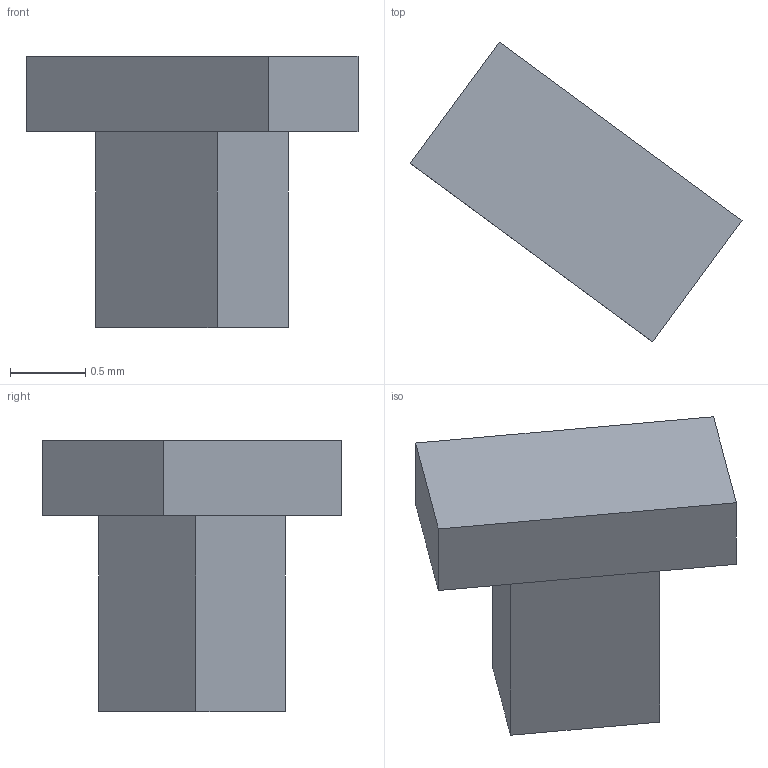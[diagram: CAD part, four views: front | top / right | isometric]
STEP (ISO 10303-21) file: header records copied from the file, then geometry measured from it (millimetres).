
FILE_DESCRIPTION(('FreeCAD Model'),'2;1');
FILE_NAME('Open CASCADE Shape Model','2026-10-23T21:15:57',('FreeCAD'),( 'FreeCAD'),'Open CASCADE STEP processor 7.8','FreeCAD','Unknown');
FILE_SCHEMA(('AUTOMOTIVE_DESIGN { 1 0 10303 214 1 1 1 1 }'));
Length unit declared in the file: millimetre
Products named in the file (1): Open CASCADE STEP translator 7.8 16
Bounding box: 2.2 x 1.99 x 1.8 mm (x, y, z)
Volume: 2 mm3; surface area: 11.7 mm2
Topology: 1 solids, 1 shells, 11 faces, 24 edges, 16 vertices
Faces by surface type: plane 11
Entity records: 308 total; most frequent: CARTESIAN_POINT 52, DIRECTION 48, ORIENTED_EDGE 48, EDGE_CURVE 24, LINE 24, VECTOR 24, VERTEX_POINT 16, AXIS2_PLACEMENT_3D 12
